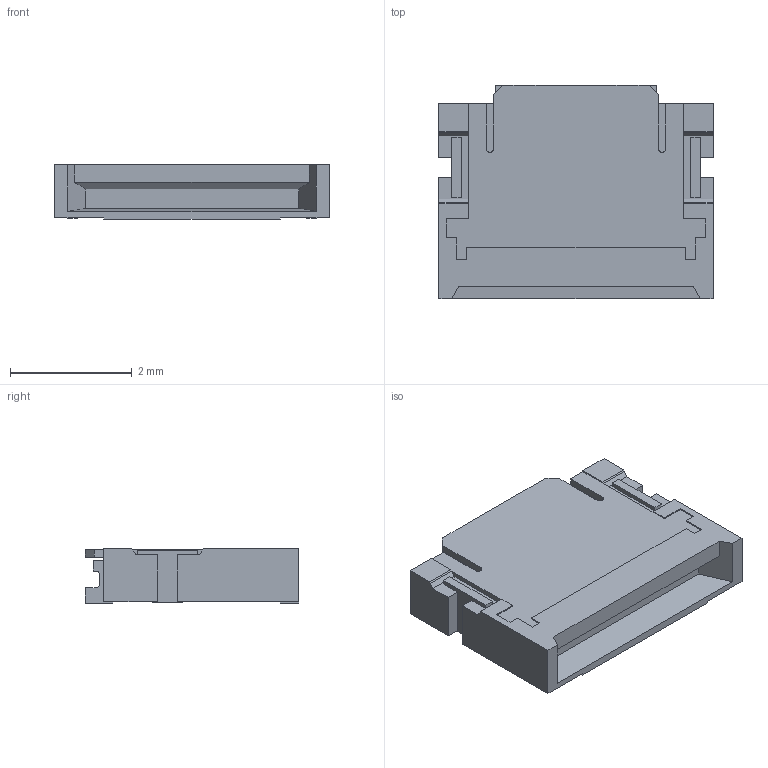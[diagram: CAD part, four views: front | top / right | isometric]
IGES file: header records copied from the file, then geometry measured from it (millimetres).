
Start section: START RECORD GO HERE.
Global section: file name: 00_6277_006_001_xxx.igs; native system: IBM CATIA IGES - CATIA Version 5 Release 14 ; preprocessor: CATIA Version 5 Release 14 ; author: Engineering Dept.; organization: KYOCERA ELCO Corporation ; date: 20060804.202922; units: millimetre
Bounding box: 4.5 x 3.5 x 0.9 mm (x, y, z)
Surface area: 49.6 mm2 (no closed solid volume)
Topology: 0 solids, 0 shells, 176 faces, 1104 edges, 1104 vertices
Faces by surface type: plane 162, revolution 14
